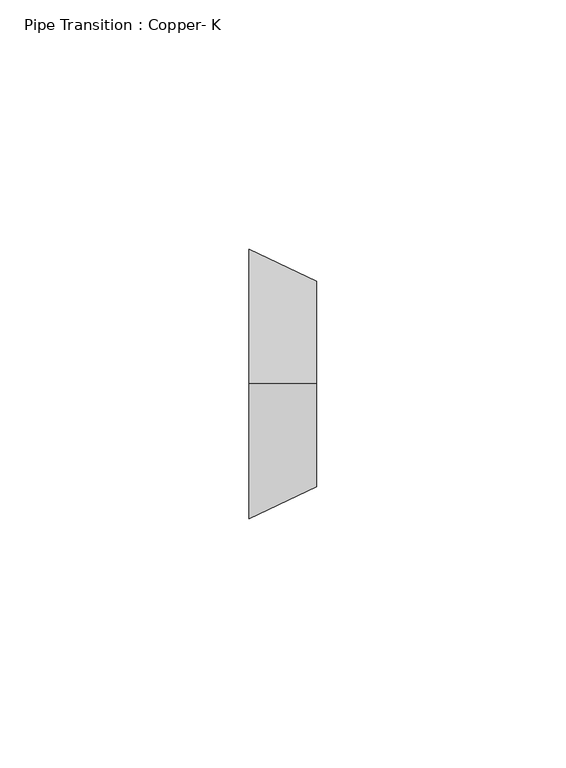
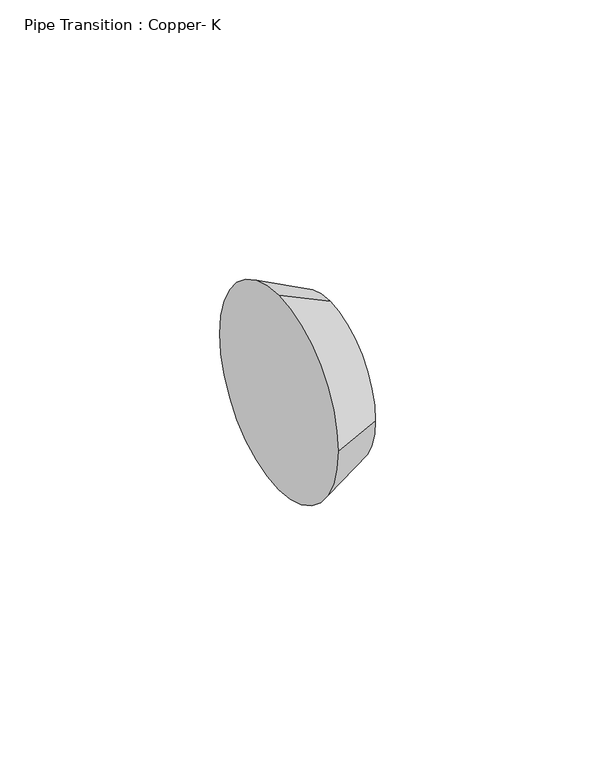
"""IFC4 building model written with IfcOpenShell, lengths in millimetres: pipe fitting geometry, Pipe Transition : Copper- K."""

from ifc_helpers import new_model, si_unit, frame, origin, place, context, project, spatial, circle_curve, source, transform, mapped, element, save
from ifc_brep_helpers import plane_surface, spline_surface, advanced_brep


def pipe_transition_copper_k_a267e643(model_context):
    return source(origin(), model_context, "Body", "AdvancedBrep", [
        advanced_brep(
        [(13.49375, 0.0, 20.6375261), (13.49375, -20.6375, 2.61e-05), (13.49375, 0.0, -20.6374739), (13.49375, 20.6375, 2.61e-05), (0.0, 0.0, 26.9875), (0.0, 26.9875, 0.0), (0.0, 0.0, -26.9875), (0.0, -26.9875, 0.0)],
        [
            (0, 1, circle_curve(frame((13.49375, 0.0, 2.61e-05), z_axis=(1.0, 0.0, 0.0), x_axis=(0.0, 1.0, 0.0)), 20.6375)),
            (1, 2, circle_curve(frame((13.49375, 0.0, 2.61e-05), z_axis=(1.0, 0.0, 0.0), x_axis=(0.0, 1.0, 0.0)), 20.6375)),
            (2, 3, circle_curve(frame((13.49375, 0.0, 2.61e-05), z_axis=(1.0, 0.0, 0.0), x_axis=(0.0, 1.0, 0.0)), 20.6375)),
            (3, 0, circle_curve(frame((13.49375, 0.0, 2.61e-05), z_axis=(1.0, 0.0, 0.0), x_axis=(0.0, 1.0, 0.0)), 20.6375)),
            (4, 5, circle_curve(frame((0.0, 0.0, 0.0), z_axis=(-1.0, 0.0, 0.0), x_axis=(0.0, 1.0, 0.0)), 26.9875)),
            (5, 6, circle_curve(frame((0.0, 0.0, 0.0), z_axis=(-1.0, 0.0, 0.0), x_axis=(0.0, 1.0, 0.0)), 26.9875)),
            (6, 7, circle_curve(frame((0.0, 0.0, 0.0), z_axis=(-1.0, 0.0, 0.0), x_axis=(0.0, 1.0, 0.0)), 26.9875)),
            (7, 4, circle_curve(frame((0.0, 0.0, 0.0), z_axis=(-1.0, 0.0, 0.0), x_axis=(0.0, 1.0, 0.0)), 26.9875)),
            (7, 1),
            (0, 4),
            (6, 2),
            (5, 3),
        ],
        [
            plane_surface(frame((13.49375, 0.0, 2.61e-05), z_axis=(1.0, 0.0, 0.0), x_axis=(0.0, -1.0, 0.0))),
            plane_surface(frame((0.0, 0.0, 0.0), z_axis=(-1.0, 0.0, 0.0), x_axis=(0.0, -1.0, 0.0))),
            spline_surface(2, 1, [[(0.0, 0.0, 26.9875), (13.49375, 0.0, 20.6375261)], [(0.0, -26.9875, 26.9875), (13.49375, -20.6375, 20.6375261)], [(0.0, -26.9875, 0.0), (13.49375, -20.6375, 2.61e-05)]], [3, 3], [2, 2], [0.0, 1.0], [0.0, 1.0], weights=[[1.0, 1.0], [0.7071067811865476, 0.7071067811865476], [1.0, 1.0]]),
            spline_surface(2, 1, [[(0.0, -26.9875, 0.0), (13.49375, -20.6375, 2.61e-05)], [(0.0, -26.9875, -26.9875), (13.49375, -20.6375, -20.6374739)], [(0.0, 0.0, -26.9875), (13.49375, 0.0, -20.6374739)]], [3, 3], [2, 2], [0.0, 1.0], [0.0, 1.0], weights=[[1.0, 1.0], [0.7071067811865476, 0.7071067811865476], [1.0, 1.0]]),
            spline_surface(2, 1, [[(0.0, 0.0, -26.9875), (13.49375, 0.0, -20.6374739)], [(0.0, 26.9875, -26.9875), (13.49375, 20.6375, -20.6374739)], [(0.0, 26.9875, 0.0), (13.49375, 20.6375, 2.61e-05)]], [3, 3], [2, 2], [0.0, 1.0], [0.0, 1.0], weights=[[1.0, 1.0], [0.7071067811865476, 0.7071067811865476], [1.0, 1.0]]),
            spline_surface(2, 1, [[(0.0, 26.9875, 0.0), (13.49375, 20.6375, 2.61e-05)], [(0.0, 26.9875, 26.9875), (13.49375, 20.6375, 20.6375261)], [(0.0, 0.0, 26.9875), (13.49375, 0.0, 20.6375261)]], [3, 3], [2, 2], [0.0, 1.0], [0.0, 1.0], weights=[[1.0, 1.0], [0.7071067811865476, 0.7071067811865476], [1.0, 1.0]]),
        ],
        [
            (0, [[1, 2, 3, 4]]),
            (1, [[5, 6, 7, 8]]),
            (2, [[-8, 9, -1, 10]]),
            (3, [[-7, 11, -2, -9]]),
            (4, [[-6, 12, -3, -11]]),
            (5, [[-5, -10, -4, -12]]),
        ],
    ),
        advanced_brep(
        [(13.49375, 0.0, 20.6375261), (13.49375, -20.6375, 2.61e-05), (13.49375, 0.0, -20.6374739), (13.49375, 20.6375, 2.61e-05), (0.0, 0.0, 26.9875), (0.0, 26.9875, 0.0), (0.0, 0.0, -26.9875), (0.0, -26.9875, 0.0)],
        [
            (0, 1, circle_curve(frame((13.49375, 0.0, 2.61e-05), z_axis=(1.0, 0.0, 0.0), x_axis=(0.0, 1.0, 0.0)), 20.6375)),
            (1, 2, circle_curve(frame((13.49375, 0.0, 2.61e-05), z_axis=(1.0, 0.0, 0.0), x_axis=(0.0, 1.0, 0.0)), 20.6375)),
            (2, 3, circle_curve(frame((13.49375, 0.0, 2.61e-05), z_axis=(1.0, 0.0, 0.0), x_axis=(0.0, 1.0, 0.0)), 20.6375)),
            (3, 0, circle_curve(frame((13.49375, 0.0, 2.61e-05), z_axis=(1.0, 0.0, 0.0), x_axis=(0.0, 1.0, 0.0)), 20.6375)),
            (4, 5, circle_curve(frame((0.0, 0.0, 0.0), z_axis=(-1.0, 0.0, 0.0), x_axis=(0.0, 1.0, 0.0)), 26.9875)),
            (5, 6, circle_curve(frame((0.0, 0.0, 0.0), z_axis=(-1.0, 0.0, 0.0), x_axis=(0.0, 1.0, 0.0)), 26.9875)),
            (6, 7, circle_curve(frame((0.0, 0.0, 0.0), z_axis=(-1.0, 0.0, 0.0), x_axis=(0.0, 1.0, 0.0)), 26.9875)),
            (7, 4, circle_curve(frame((0.0, 0.0, 0.0), z_axis=(-1.0, 0.0, 0.0), x_axis=(0.0, 1.0, 0.0)), 26.9875)),
            (7, 1),
            (0, 4),
            (6, 2),
            (5, 3),
        ],
        [
            plane_surface(frame((13.49375, 0.0, 2.61e-05), z_axis=(1.0, 0.0, 0.0), x_axis=(0.0, -1.0, 0.0))),
            plane_surface(frame((0.0, 0.0, 0.0), z_axis=(-1.0, 0.0, 0.0), x_axis=(0.0, -1.0, 0.0))),
            spline_surface(2, 1, [[(0.0, 0.0, 26.9875), (13.49375, 0.0, 20.6375261)], [(0.0, -26.9875, 26.9875), (13.49375, -20.6375, 20.6375261)], [(0.0, -26.9875, 0.0), (13.49375, -20.6375, 2.61e-05)]], [3, 3], [2, 2], [0.0, 1.0], [0.0, 1.0], weights=[[1.0, 1.0], [0.7071067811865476, 0.7071067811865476], [1.0, 1.0]]),
            spline_surface(2, 1, [[(0.0, -26.9875, 0.0), (13.49375, -20.6375, 2.61e-05)], [(0.0, -26.9875, -26.9875), (13.49375, -20.6375, -20.6374739)], [(0.0, 0.0, -26.9875), (13.49375, 0.0, -20.6374739)]], [3, 3], [2, 2], [0.0, 1.0], [0.0, 1.0], weights=[[1.0, 1.0], [0.7071067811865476, 0.7071067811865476], [1.0, 1.0]]),
            spline_surface(2, 1, [[(0.0, 0.0, -26.9875), (13.49375, 0.0, -20.6374739)], [(0.0, 26.9875, -26.9875), (13.49375, 20.6375, -20.6374739)], [(0.0, 26.9875, 0.0), (13.49375, 20.6375, 2.61e-05)]], [3, 3], [2, 2], [0.0, 1.0], [0.0, 1.0], weights=[[1.0, 1.0], [0.7071067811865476, 0.7071067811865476], [1.0, 1.0]]),
            spline_surface(2, 1, [[(0.0, 26.9875, 0.0), (13.49375, 20.6375, 2.61e-05)], [(0.0, 26.9875, 26.9875), (13.49375, 20.6375, 20.6375261)], [(0.0, 0.0, 26.9875), (13.49375, 0.0, 20.6375261)]], [3, 3], [2, 2], [0.0, 1.0], [0.0, 1.0], weights=[[1.0, 1.0], [0.7071067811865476, 0.7071067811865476], [1.0, 1.0]]),
        ],
        [
            (0, [[1, 2, 3, 4]]),
            (1, [[5, 6, 7, 8]]),
            (2, [[-8, 9, -1, 10]]),
            (3, [[-7, 11, -2, -9]]),
            (4, [[-6, 12, -3, -11]]),
            (5, [[-5, -10, -4, -12]]),
        ],
    ),
    ])


if __name__ == "__main__":
    model = new_model("IFC4")
    model_context = context("Model", 3, world=origin())
    ifc_project = project(units=[si_unit("LENGTHUNIT", "METRE", prefix="MILLI")], contexts=[model_context])
    site = spatial("IfcSite", under=ifc_project)
    building = spatial("IfcBuilding", under=site)
    placement = place(None, origin())
    pipe_transition_copper_k_shape = pipe_transition_copper_k_a267e643(model_context)
    element("IfcPipeFitting", 1, ObjectType="Pipe Transition : Copper- K", at=placement, inside=building, context=model_context, shape_type="MappedRepresentation", body=[
        mapped(pipe_transition_copper_k_shape, transform((0.0, 0.0, 0.0), x_axis=(1.0, 0.0, 0.0), y_axis=(0.0, 1.0, 0.0), z_axis=(0.0, 0.0, 1.0))),
    ])
    save(model, "model.ifc")
